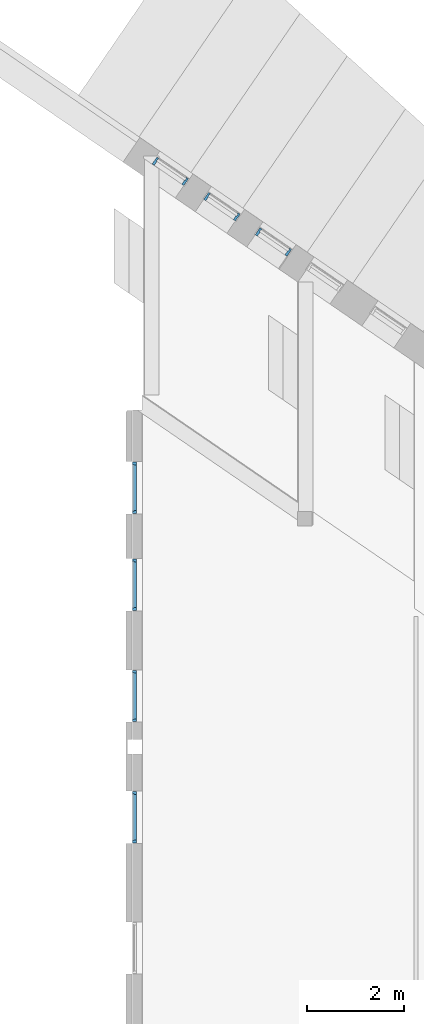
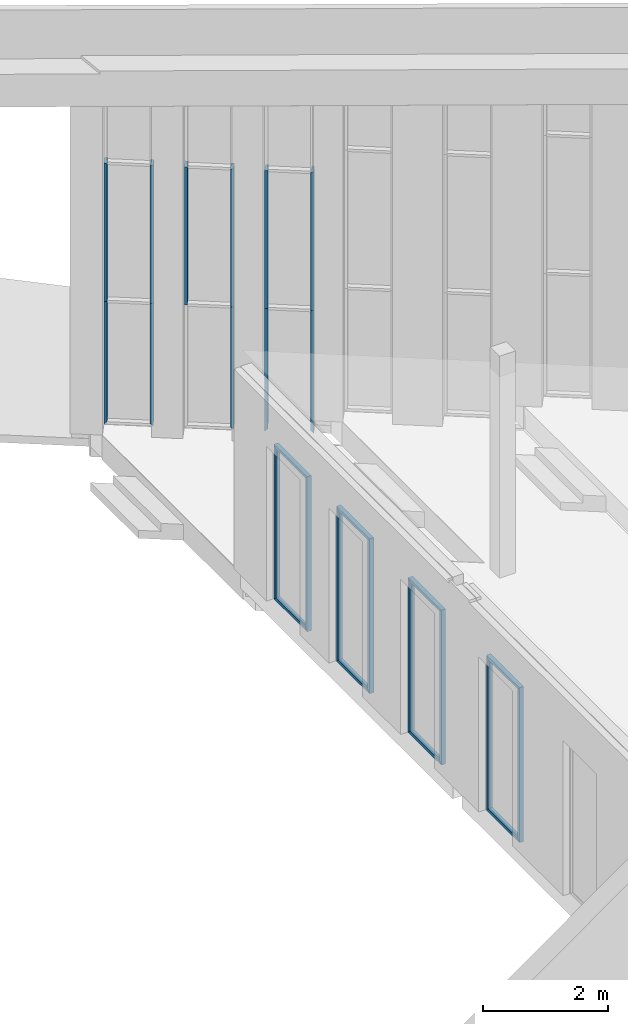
# One storey, part 11 of 79: 27 members, 7 elements without a shape of their own.
"""IFC2X3 building model written with IfcOpenShell, lengths in millimetres."""

from ifc_helpers import new_model, entity, si_unit, converted_unit, derived_unit, money_unit, direction, frame, origin_with_axes, place, context, subcontext, project, spatial, faceted_brep, source, transform, mapped, material, type_object, element, aggregate, save


model = new_model("IFC2X3")

# Units and contexts
model_context = context("Model", 3, precision=0.01, world=origin_with_axes(), true_north=direction((0.0, 1.0)))
body_context = subcontext(model_context, "Body", "Model", "MODEL_VIEW")
ifc_project = project(units=[si_unit("LENGTHUNIT", "METRE", prefix="MILLI"), si_unit("AREAUNIT", "SQUARE_METRE"), si_unit("VOLUMEUNIT", "CUBIC_METRE"), converted_unit("PLANEANGLEUNIT", "DEGREE", entity("IfcPlaneAngleMeasure", 0.0174532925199), si_unit("PLANEANGLEUNIT", "RADIAN"), dimensions=[0, 0, 0, 0, 0, 0, 0]), si_unit("SOLIDANGLEUNIT", "STERADIAN"), money_unit("EUR"), converted_unit("TIMEUNIT", "Year", entity("IfcTimeMeasure", 31556926.0), si_unit("TIMEUNIT", "SECOND"), dimensions=[0, 0, 1, 0, 0, 0, 0]), si_unit("MASSUNIT", "GRAM", prefix="KILO"), si_unit("THERMODYNAMICTEMPERATUREUNIT", "DEGREE_CELSIUS"), si_unit("LUMINOUSINTENSITYUNIT", "LUMEN"), si_unit("ENERGYUNIT", "JOULE", prefix="MEGA"), derived_unit("THERMALCONDUCTANCEUNIT", [(si_unit("POWERUNIT", "WATT"), 1), (si_unit("LENGTHUNIT", "METRE"), -1), (si_unit("THERMODYNAMICTEMPERATUREUNIT", "KELVIN"), -1)]), derived_unit("SPECIFICHEATCAPACITYUNIT", [(si_unit("ENERGYUNIT", "JOULE"), 1), (si_unit("MASSUNIT", "GRAM", prefix="KILO"), -1), (si_unit("THERMODYNAMICTEMPERATUREUNIT", "KELVIN"), -1)]), derived_unit("MASSDENSITYUNIT", [(si_unit("MASSUNIT", "GRAM", prefix="KILO"), 1), (si_unit("VOLUMEUNIT", "CUBIC_METRE"), -1)])], contexts=[model_context])

# Site, building, storey
site_placement = place(None, origin_with_axes())
site = spatial("IfcSite", under=ifc_project, at=site_placement, Name="L.Koidula tn 11b", CompositionType="ELEMENT")
building_placement = place(site_placement, origin_with_axes())
building = spatial("IfcBuilding", under=site, at=building_placement, Name="Rakvere Riigigümnaasium", CompositionType="ELEMENT")
storey_placement = place(building_placement, frame((0.0, 0.0, 3720.0), z_axis=(0.0, 0.0, 1.0), x_axis=(1.0, 0.0, 0.0)))
storey = spatial("IfcBuildingStorey", under=building, at=storey_placement, Name="2.korrus +3,72", CompositionType="ELEMENT", Elevation=3720.0)

# Curtain wall, members
curtain_wall_type = type_object("IfcCurtainWallType", Name="Curtain Wall Type", PredefinedType="NOTDEFINED")
curtain_wall_1_placement = place(storey_placement, frame((58784.8898209, 36159.1031473, -1860.00002162), z_axis=(0.0, 0.0, 1.0), x_axis=(1.0, 0.0, 0.0)))
curtain_wall_1 = element("IfcCurtainWall", 1, at=curtain_wall_1_placement, inside=storey, type_object=curtain_wall_type, Name="KLF-06-21")
ifc_material = material(Name="Alumiiniumprofiil (RAL 7021)")
member_type_1 = type_object("IfcMemberType", Name="Boundary Frame 50 x 170", PredefinedType="MULLION")
shared_shape_1 = source(origin_with_axes(), body_context, "Body", "Brep", [
    faceted_brep([(-37.0, -26.0, 2700.00000012), (-50.0, -26.0, 2700.00000012), (-50.0, -124.0, 2700.00000012), (0.0, -124.0, 2700.00000012), (0.0, 46.0, 2700.00000012), (-50.0, 46.0, 2700.00000012), (-50.0, 26.0, 2700.00000012), (-37.0, 26.0, 2700.00000012), (-37.0, -26.0, -5.18836085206e-07), (-50.0, -26.0, -5.18836307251e-07), (-50.0, -124.0, -5.18836307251e-07), (0.0, -124.0, -5.18836307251e-07), (0.0, 46.0, -5.18836307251e-07), (-50.0, 46.0, -5.18836307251e-07), (-50.0, 26.0, -5.18836307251e-07), (-37.0, 26.0, -5.18836085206e-07)], [[[0, 1, 2, 3, 4, 5, 6, 7]], [[0, 8, 9, 1]], [[9, 10, 2, 1]], [[10, 11, 3, 2]], [[11, 12, 4, 3]], [[12, 13, 5, 4]], [[6, 5, 13, 14]], [[14, 15, 7, 6]], [[7, 15, 8, 0]], [[8, 15, 14, 13, 12, 11, 10, 9]]]),
])
member_1_placement = place(curtain_wall_1_placement, frame((325.567539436, -223.299308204, 2400.00007855), z_axis=(2.25814402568e-08, -1.5488089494e-08, 1.0), x_axis=(-0.824666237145, 0.565619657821, 2.73825192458e-08)))
member_1 = element("IfcMember", 2, at=member_1_placement, type_object=member_type_1, material=ifc_material, Name="KLF-06-49-Profiilid", ObjectType="MULLION", context=body_context, shape_type="MappedRepresentation", body=[
    mapped(shared_shape_1, transform((0.0, 0.0, 0.0), x_axis=(-1.0, 0.0, 2.73825192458e-08), y_axis=(0.0, -1.0, 0.0), z_axis=(2.73825192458e-08, 0.0, 1.0))),
])
member_2_placement = place(curtain_wall_1_placement, frame((-325.56754319, 223.299310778, 5100.00007855), z_axis=(-2.93466334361e-08, 2.0128186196e-08, -1.0), x_axis=(0.824666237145, -0.565619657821, -3.55860755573e-08)))
member_2 = element("IfcMember", 3, at=member_2_placement, type_object=member_type_1, material=ifc_material, Name="KLF-06-53-Profiilid", ObjectType="MULLION", context=body_context, shape_type="MappedRepresentation", body=[
    mapped(shared_shape_1, transform((0.0, 0.0, 0.0), x_axis=(-1.0, 0.0, 3.55860754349e-08), y_axis=(0.0, -1.0, 0.0), z_axis=(3.55860754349e-08, 0.0, 1.0))),
])

curtain_wall_2_placement = place(storey_placement, frame((59849.7544247, 35428.7459613, -1860.00000854), z_axis=(0.0, 0.0, 1.0), x_axis=(1.0, 0.0, 0.0)))
curtain_wall_2 = element("IfcCurtainWall", 4, at=curtain_wall_2_placement, inside=storey, type_object=curtain_wall_type, Name="KLF-06-20")
member_3_placement = place(curtain_wall_2_placement, frame((-325.751174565, 223.425259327, 5100.00006547), z_axis=(8.47203136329e-05, -5.81077200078e-05, -0.999999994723), x_axis=(0.824666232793, -0.565619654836, 0.000102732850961)))
member_3 = element("IfcMember", 5, at=member_3_placement, type_object=member_type_1, material=ifc_material, Name="KLF-06-53-Profiilid", ObjectType="MULLION", context=body_context, shape_type="MappedRepresentation", body=[
    mapped(shared_shape_1, transform((0.0, 0.0, 0.0), x_axis=(-1.0, 0.0, 0.0), y_axis=(0.0, -1.0, 0.0), z_axis=(0.0, 0.0, 1.0))),
])
member_4_placement = place(curtain_wall_2_placement, frame((325.63676236, -223.34678662, 2400.00006547), z_axis=(2.94671625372e-08, -2.02108512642e-08, 1.0), x_axis=(-0.824666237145, 0.565619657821, 3.57322288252e-08)))
member_4 = element("IfcMember", 6, at=member_4_placement, type_object=member_type_1, material=ifc_material, Name="KLF-06-49-Profiilid", ObjectType="MULLION", context=body_context, shape_type="MappedRepresentation", body=[
    mapped(shared_shape_1, transform((0.0, 0.0, 0.0), x_axis=(-1.0, 0.0, 3.57322288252e-08), y_axis=(0.0, -1.0, 0.0), z_axis=(3.57322288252e-08, 0.0, 1.0))),
])

curtain_wall_3_placement = place(storey_placement, frame((60913.4534613, 34699.1792069, -1860.00008737), z_axis=(0.0, 0.0, 1.0), x_axis=(1.0, 0.0, 0.0)))
curtain_wall_3 = element("IfcCurtainWall", 7, at=curtain_wall_3_placement, inside=storey, type_object=curtain_wall_type, Name="KLF-06-19")
member_5_placement = place(curtain_wall_3_placement, frame((-325.743105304, 223.419724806, 5100.0001443), z_axis=(0.0, 0.0, -1.0), x_axis=(0.824666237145, -0.565619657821, 0.0)))
member_5 = element("IfcMember", 8, at=member_5_placement, type_object=member_type_1, material=ifc_material, Name="KLF-06-68-Profiilid", ObjectType="MULLION", context=body_context, shape_type="MappedRepresentation", body=[
    mapped(shared_shape_1, transform((0.0, 0.0, 0.0), x_axis=(-1.0, 0.0, 0.0), y_axis=(0.0, -1.0, 0.0), z_axis=(0.0, 0.0, 1.0))),
])
member_6_placement = place(curtain_wall_3_placement, frame((325.743032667, -223.419674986, 2400.0001443), z_axis=(5.38055091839e-08, -3.6903963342e-08, 1.0), x_axis=(-0.824666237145, 0.565619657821, 6.52451939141e-08)))
member_6 = element("IfcMember", 9, at=member_6_placement, type_object=member_type_1, material=ifc_material, Name="KLF-06-64-Profiilid", ObjectType="MULLION", context=body_context, shape_type="MappedRepresentation", body=[
    mapped(shared_shape_1, transform((0.0, 0.0, 0.0), x_axis=(-1.0, 0.0, 6.52451939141e-08), y_axis=(0.0, -1.0, 0.0), z_axis=(6.52451939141e-08, 0.0, 1.0))),
])

# Member
shared_shape_2 = source(origin_with_axes(), body_context, "Body", "Brep", [
    faceted_brep([(-37.0, -26.0, 2400.00000019), (-50.0, -26.0, 2400.00000019), (-50.0, -124.0, 2400.00000019), (0.0, -124.0, 2400.00000019), (0.0, 46.0, 2400.00000019), (-50.0, 46.0, 2400.00000019), (-50.0, 26.0, 2400.00000019), (-37.0, 26.0, 2400.00000019), (-37.0, -26.0, 37.0), (-50.0, -26.0, 50.0), (-50.0, -124.0, 50.0), (0.0, -124.0, 0.0), (0.0, 46.0, 0.0), (-50.0, 46.0, 50.0), (-50.0, 26.0, 50.0), (-37.0, 26.0, 37.0)], [[[0, 1, 2, 3, 4, 5, 6, 7]], [[0, 8, 9, 1]], [[9, 10, 2, 1]], [[2, 10, 11, 3]], [[3, 11, 12, 4]], [[4, 12, 13, 5]], [[6, 5, 13, 14]], [[14, 15, 7, 6]], [[7, 15, 8, 0]], [[8, 15, 14, 13, 12, 11, 10, 9]]]),
])
member_7_placement = place(curtain_wall_1_placement, frame((325.567539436, -223.299308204, 0.0), z_axis=(0.0, 0.0, 1.0), x_axis=(-0.824666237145, 0.565619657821, 0.0)))
member_7 = element("IfcMember", 10, at=member_7_placement, type_object=member_type_1, material=ifc_material, Name="KLF-06-48-Profiilid", ObjectType="MULLION", context=body_context, shape_type="MappedRepresentation", body=[
    mapped(shared_shape_2, transform((0.0, 0.0, 0.0), x_axis=(-1.0, 0.0, 0.0), y_axis=(0.0, -1.0, 0.0), z_axis=(0.0, 0.0, 1.0))),
])

member_8_placement = place(curtain_wall_2_placement, frame((325.63676236, -223.34678662, 0.0), z_axis=(0.0, 0.0, 1.0), x_axis=(-0.824666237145, 0.565619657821, 0.0)))
member_8 = element("IfcMember", 11, at=member_8_placement, type_object=member_type_1, material=ifc_material, Name="KLF-06-48-Profiilid", ObjectType="MULLION", context=body_context, shape_type="MappedRepresentation", body=[
    mapped(shared_shape_2, transform((0.0, 0.0, 0.0), x_axis=(-1.0, 0.0, 0.0), y_axis=(0.0, -1.0, 0.0), z_axis=(0.0, 0.0, 1.0))),
])

aggregate(curtain_wall_2, [member_3, member_4, member_8])

member_9_placement = place(curtain_wall_3_placement, frame((325.742951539, -223.419619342, 0.0), z_axis=(3.3803260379e-08, -2.31848807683e-08, 1.0), x_axis=(-0.824666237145, 0.565619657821, 4.09902318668e-08)))
member_9 = element("IfcMember", 12, at=member_9_placement, type_object=member_type_1, material=ifc_material, Name="KLF-06-63-Profiilid", ObjectType="MULLION", context=body_context, shape_type="MappedRepresentation", body=[
    mapped(shared_shape_2, transform((0.0, 0.0, 0.0), x_axis=(-1.0, 0.0, 4.09902318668e-08), y_axis=(0.0, -1.0, 0.0), z_axis=(4.09902318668e-08, 0.0, 1.0))),
])

shared_shape_3 = source(origin_with_axes(), body_context, "Body", "Brep", [
    faceted_brep([(-37.0, -26.0, 2362.99999837), (-50.0, -26.0, 2349.99999779), (-50.0, -124.0, 2349.99999779), (0.0, -124.0, 2400.0), (0.0, 46.0, 2400.0), (-50.0, 46.0, 2349.99999779), (-50.0, 26.0, 2349.99999779), (-37.0, 26.0, 2362.99999837), (-37.0, -26.0, -1.22574839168e-07), (-50.0, -26.0, -1.22575061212e-07), (-50.0, -124.0, -1.22575061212e-07), (0.0, -124.0, -1.22575061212e-07), (0.0, 46.0, -1.22575061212e-07), (-50.0, 46.0, -1.22575061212e-07), (-50.0, 26.0, -1.22575061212e-07), (-37.0, 26.0, -1.22574839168e-07)], [[[0, 1, 2, 3, 4, 5, 6, 7]], [[0, 8, 9, 1]], [[9, 10, 2, 1]], [[10, 11, 3, 2]], [[11, 12, 4, 3]], [[12, 13, 5, 4]], [[6, 5, 13, 14]], [[14, 15, 7, 6]], [[7, 15, 8, 0]], [[8, 15, 14, 13, 12, 11, 10, 9]]]),
])
member_10_placement = place(curtain_wall_1_placement, frame((-325.567622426, 223.299365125, 2400.00007855), z_axis=(-3.30149644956e-08, 2.26442057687e-08, -1.0), x_axis=(0.824666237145, -0.565619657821, -4.00343344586e-08)))
member_10 = element("IfcMember", 13, at=member_10_placement, type_object=member_type_1, material=ifc_material, Name="KLF-06-46-Profiilid", ObjectType="MULLION", context=body_context, shape_type="MappedRepresentation", body=[
    mapped(shared_shape_3, transform((0.0, 0.0, 0.0), x_axis=(-1.0, 0.0, 4.00343343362e-08), y_axis=(0.0, -1.0, 0.0), z_axis=(4.00343343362e-08, 0.0, 1.0))),
])

aggregate(curtain_wall_1, [member_1, member_7, member_10, member_2])

member_11_placement = place(curtain_wall_3_placement, frame((-325.743105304, 223.419724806, 2400.0001443), z_axis=(0.0, 0.0, -1.0), x_axis=(0.824666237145, -0.565619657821, 0.0)))
member_11 = element("IfcMember", 14, at=member_11_placement, type_object=member_type_1, material=ifc_material, Name="KLF-06-61-Profiilid", ObjectType="MULLION", context=body_context, shape_type="MappedRepresentation", body=[
    mapped(shared_shape_3, transform((0.0, 0.0, 0.0), x_axis=(-1.0, 0.0, 0.0), y_axis=(0.0, -1.0, 0.0), z_axis=(0.0, 0.0, 1.0))),
])

aggregate(curtain_wall_3, [member_5, member_11, member_6, member_9])

# Curtain wall, members
curtain_wall_4_placement = place(storey_placement, frame((58002.0348101, 27595.6402648, -1405.00005955), z_axis=(0.0, 0.0, 1.0), x_axis=(1.0, 0.0, 0.0)))
curtain_wall_4 = element("IfcCurtainWall", 15, at=curtain_wall_4_placement, inside=storey, type_object=curtain_wall_type, Name="SKLF-20")
member_type_2 = type_object("IfcMemberType", Name="Boundary Frame 58 x 80", PredefinedType="MULLION")
shared_shape_4 = source(origin_with_axes(), body_context, "Body", "Brep", [
    faceted_brep([(45.0, -12.0, 1014.99992136), (45.0, 12.0, 1014.99992136), (58.0, 12.0, 1001.99992136), (58.0, 22.0, 1001.99992136), (0.0, 22.0, 1059.99992136), (0.0, -58.0, 1059.99992136), (58.0, -58.0, 1001.99992136), (58.0, -12.0, 1001.99992136), (45.0, -12.0, 45.0), (45.0, 12.0, 45.0), (58.0, 12.0, 58.0), (58.0, 22.0, 58.0), (0.0, 22.0, 0.0), (0.0, -58.0, 0.0), (58.0, -58.0, 58.0), (58.0, -12.0, 58.0)], [[[0, 1, 2, 3, 4, 5, 6, 7]], [[1, 0, 8, 9]], [[10, 2, 1, 9]], [[2, 10, 11, 3]], [[4, 3, 11, 12]], [[5, 4, 12, 13]], [[6, 5, 13, 14]], [[15, 7, 6, 14]], [[0, 7, 15, 8]], [[8, 15, 14, 13, 12, 11, 10, 9]]]),
])
member_12_placement = place(curtain_wall_4_placement, frame((0.0, -529.999960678, 3030.00005901), z_axis=(0.0, 1.0, 0.0), x_axis=(0.0, 0.0, -1.0)))
member_12 = element("IfcMember", 16, at=member_12_placement, type_object=member_type_2, material=ifc_material, Name="KLF-06-22-Profiilid", ObjectType="MULLION", context=body_context, shape_type="MappedRepresentation", body=[
    mapped(shared_shape_4, transform((0.0, 0.0, 0.0))),
])
member_13_placement = place(curtain_wall_4_placement, frame((0.0, 529.999960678, 0.0), z_axis=(0.0, -1.0, 0.0), x_axis=(0.0, 0.0, 1.0)))
member_13 = element("IfcMember", 17, at=member_13_placement, type_object=member_type_2, material=ifc_material, Name="KLF-06-24-Profiilid", ObjectType="MULLION", context=body_context, shape_type="MappedRepresentation", body=[
    mapped(shared_shape_4, transform((0.0, 0.0, 0.0))),
])

curtain_wall_5_placement = place(storey_placement, frame((58002.0348101, 29595.4092069, -1405.00005955), z_axis=(0.0, 0.0, 1.0), x_axis=(1.0, 0.0, 0.0)))
curtain_wall_5 = element("IfcCurtainWall", 18, at=curtain_wall_5_placement, inside=storey, type_object=curtain_wall_type, Name="SKLF-19")
member_14_placement = place(curtain_wall_5_placement, frame((0.0, -529.999989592, 3030.00005901), z_axis=(0.0, 1.0, 0.0), x_axis=(0.0, 0.0, -1.0)))
member_14 = element("IfcMember", 19, at=member_14_placement, type_object=member_type_2, material=ifc_material, Name="KLF-06-32-Profiilid", ObjectType="MULLION", context=body_context, shape_type="MappedRepresentation", body=[
    mapped(shared_shape_4, transform((0.0, 0.0, 0.0))),
])
member_15_placement = place(curtain_wall_5_placement, frame((0.0, 529.999989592, 0.0), z_axis=(0.0, -1.0, 0.0), x_axis=(0.0, 0.0, 1.0)))
member_15 = element("IfcMember", 20, at=member_15_placement, type_object=member_type_2, material=ifc_material, Name="KLF-06-34-Profiilid", ObjectType="MULLION", context=body_context, shape_type="MappedRepresentation", body=[
    mapped(shared_shape_4, transform((0.0, 0.0, 0.0))),
])

curtain_wall_6_placement = place(storey_placement, frame((58002.0348101, 25296.3068145, -1405.00005955), z_axis=(0.0, 0.0, 1.0), x_axis=(1.0, 0.0, 0.0)))
curtain_wall_6 = element("IfcCurtainWall", 21, at=curtain_wall_6_placement, inside=storey, type_object=curtain_wall_type, Name="SKLF-21")
member_16_placement = place(curtain_wall_6_placement, frame((0.0, -529.999960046, 3030.00001912), z_axis=(0.0, 1.0, 3.76316792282e-08), x_axis=(0.0, 3.76316792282e-08, -1.0)))
member_16 = element("IfcMember", 22, at=member_16_placement, type_object=member_type_2, material=ifc_material, Name="KLF-06-19-Profiilid", ObjectType="MULLION", context=body_context, shape_type="MappedRepresentation", body=[
    mapped(shared_shape_4, transform((0.0, 0.0, 0.0))),
])
member_17_placement = place(curtain_wall_6_placement, frame((0.0, 529.999960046, 0.0), z_axis=(0.0, -1.0, 0.0), x_axis=(0.0, 0.0, 1.0)))
member_17 = element("IfcMember", 23, at=member_17_placement, type_object=member_type_2, material=ifc_material, Name="KLF-06-21-Profiilid", ObjectType="MULLION", context=body_context, shape_type="MappedRepresentation", body=[
    mapped(shared_shape_4, transform((0.0, 0.0, 0.0))),
])

curtain_wall_7_placement = place(storey_placement, frame((58002.0348101, 22795.9964925, -1405.00005955), z_axis=(0.0, 0.0, 1.0), x_axis=(1.0, 0.0, 0.0)))
curtain_wall_7 = element("IfcCurtainWall", 24, at=curtain_wall_7_placement, inside=storey, type_object=curtain_wall_type, Name="SKLF-22")
member_18_placement = place(curtain_wall_7_placement, frame((0.0, 529.99994916, 0.0), z_axis=(0.0, -1.0, 0.0), x_axis=(0.0, 0.0, 1.0)))
member_18 = element("IfcMember", 25, at=member_18_placement, type_object=member_type_2, material=ifc_material, Name="KLF-06-17-Profiilid", ObjectType="MULLION", context=body_context, shape_type="MappedRepresentation", body=[
    mapped(shared_shape_4, transform((0.0, 0.0, 0.0))),
])
member_19_placement = place(curtain_wall_7_placement, frame((0.0, -529.99994916, 3030.00005901), z_axis=(0.0, 1.0, 0.0), x_axis=(0.0, 0.0, -1.0)))
member_19 = element("IfcMember", 26, at=member_19_placement, type_object=member_type_2, material=ifc_material, Name="KLF-06-15-Profiilid", ObjectType="MULLION", context=body_context, shape_type="MappedRepresentation", body=[
    mapped(shared_shape_4, transform((0.0, 0.0, 0.0))),
])

# Member
shared_shape_5 = source(origin_with_axes(), body_context, "Body", "Brep", [
    faceted_brep([(-45.0, -12.0, 2985.00005901), (-58.0, -12.0, 2972.00005901), (-58.0, -58.0, 2972.00005901), (0.0, -58.0, 3030.00005901), (0.0, 22.0, 3030.00005901), (-58.0, 22.0, 2972.00005901), (-58.0, 12.0, 2972.00005901), (-45.0, 12.0, 2985.00005901), (-45.0, -12.0, 45.0), (-58.0, -12.0, 58.0), (-58.0, -58.0, 58.0), (0.0, -58.0, 0.0), (0.0, 22.0, 0.0), (-58.0, 22.0, 58.0), (-58.0, 12.0, 58.0), (-45.0, 12.0, 45.0)], [[[0, 1, 2, 3, 4, 5, 6, 7]], [[0, 8, 9, 1]], [[9, 10, 2, 1]], [[2, 10, 11, 3]], [[3, 11, 12, 4]], [[4, 12, 13, 5]], [[6, 5, 13, 14]], [[14, 15, 7, 6]], [[7, 15, 8, 0]], [[8, 15, 14, 13, 12, 11, 10, 9]]]),
])
member_20_placement = place(curtain_wall_4_placement, frame((0.0, 529.999960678, 0.0), z_axis=(0.0, 0.0, 1.0), x_axis=(0.0, 1.0, 0.0)))
member_20 = element("IfcMember", 27, at=member_20_placement, type_object=member_type_2, material=ifc_material, Name="KLF-06-23-Profiilid", ObjectType="MULLION", context=body_context, shape_type="MappedRepresentation", body=[
    mapped(shared_shape_5, transform((0.0, 0.0, 0.0))),
])

member_21_placement = place(curtain_wall_5_placement, frame((0.0, 529.999989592, 0.0), z_axis=(0.0, 0.0, 1.0), x_axis=(0.0, 1.0, 0.0)))
member_21 = element("IfcMember", 28, at=member_21_placement, type_object=member_type_2, material=ifc_material, Name="KLF-06-33-Profiilid", ObjectType="MULLION", context=body_context, shape_type="MappedRepresentation", body=[
    mapped(shared_shape_5, transform((0.0, 0.0, 0.0))),
])

member_22_placement = place(curtain_wall_6_placement, frame((0.0, 529.999960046, 0.0), z_axis=(0.0, 0.0, 1.0), x_axis=(0.0, 1.0, 0.0)))
member_22 = element("IfcMember", 29, at=member_22_placement, type_object=member_type_2, material=ifc_material, Name="KLF-06-20-Profiilid", ObjectType="MULLION", context=body_context, shape_type="MappedRepresentation", body=[
    mapped(shared_shape_5, transform((0.0, 0.0, 0.0))),
])

member_23_placement = place(curtain_wall_7_placement, frame((0.0, 529.99994916, 0.0), z_axis=(0.0, 0.0, 1.0), x_axis=(0.0, 1.0, 0.0)))
member_23 = element("IfcMember", 30, at=member_23_placement, type_object=member_type_2, material=ifc_material, Name="KLF-06-16-Profiilid", ObjectType="MULLION", context=body_context, shape_type="MappedRepresentation", body=[
    mapped(shared_shape_5, transform((0.0, 0.0, 0.0))),
])

shared_shape_6 = source(origin_with_axes(), body_context, "Body", "Brep", [
    faceted_brep([(45.0, -12.0, 2985.00005901), (45.0, 12.0, 2985.00005901), (58.0, 12.0, 2972.00005901), (58.0, 22.0, 2972.00005901), (0.0, 22.0, 3030.00005901), (0.0, -58.0, 3030.00005901), (58.0, -58.0, 2972.00005901), (58.0, -12.0, 2972.00005901), (45.0, -12.0, 45.0), (45.0, 12.0, 45.0), (58.0, 12.0, 58.0), (58.0, 22.0, 58.0), (0.0, 22.0, 0.0), (0.0, -58.0, 0.0), (58.0, -58.0, 58.0), (58.0, -12.0, 58.0)], [[[0, 1, 2, 3, 4, 5, 6, 7]], [[1, 0, 8, 9]], [[10, 2, 1, 9]], [[2, 10, 11, 3]], [[4, 3, 11, 12]], [[5, 4, 12, 13]], [[6, 5, 13, 14]], [[15, 7, 6, 14]], [[0, 7, 15, 8]], [[8, 15, 14, 13, 12, 11, 10, 9]]]),
])
member_24_placement = place(curtain_wall_4_placement, frame((0.0, -529.999960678, 0.0), z_axis=(0.0, 0.0, 1.0), x_axis=(0.0, 1.0, 0.0)))
member_24 = element("IfcMember", 31, at=member_24_placement, type_object=member_type_2, material=ifc_material, Name="KLF-06-25-Profiilid", ObjectType="MULLION", context=body_context, shape_type="MappedRepresentation", body=[
    mapped(shared_shape_6, transform((0.0, 0.0, 0.0))),
])

aggregate(curtain_wall_4, [member_20, member_12, member_13, member_24])

member_25_placement = place(curtain_wall_5_placement, frame((0.0, -529.999989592, 0.0), z_axis=(0.0, 0.0, 1.0), x_axis=(0.0, 1.0, 0.0)))
member_25 = element("IfcMember", 32, at=member_25_placement, type_object=member_type_2, material=ifc_material, Name="KLF-06-35-Profiilid", ObjectType="MULLION", context=body_context, shape_type="MappedRepresentation", body=[
    mapped(shared_shape_6, transform((0.0, 0.0, 0.0))),
])

aggregate(curtain_wall_5, [member_21, member_14, member_15, member_25])

member_26_placement = place(curtain_wall_6_placement, frame((0.0, -529.999960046, 0.0), z_axis=(0.0, 0.0, 1.0), x_axis=(0.0, 1.0, 0.0)))
member_26 = element("IfcMember", 33, at=member_26_placement, type_object=member_type_2, material=ifc_material, Name="KLF-06-22-Profiilid", ObjectType="MULLION", context=body_context, shape_type="MappedRepresentation", body=[
    mapped(shared_shape_6, transform((0.0, 0.0, 0.0))),
])

aggregate(curtain_wall_6, [member_16, member_22, member_26, member_17])

member_27_placement = place(curtain_wall_7_placement, frame((0.0, -529.99994916, 0.0), z_axis=(0.0, 0.0, 1.0), x_axis=(0.0, 1.0, 0.0)))
member_27 = element("IfcMember", 34, at=member_27_placement, type_object=member_type_2, material=ifc_material, Name="KLF-06-18-Profiilid", ObjectType="MULLION", context=body_context, shape_type="MappedRepresentation", body=[
    mapped(shared_shape_6, transform((0.0, 0.0, 0.0))),
])

aggregate(curtain_wall_7, [member_18, member_19, member_23, member_27])

save(model, "model.ifc")
